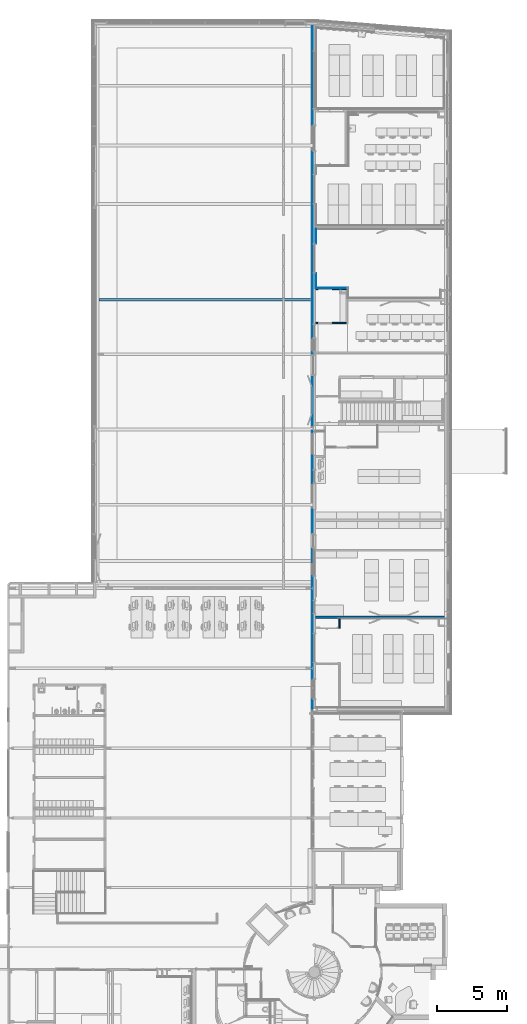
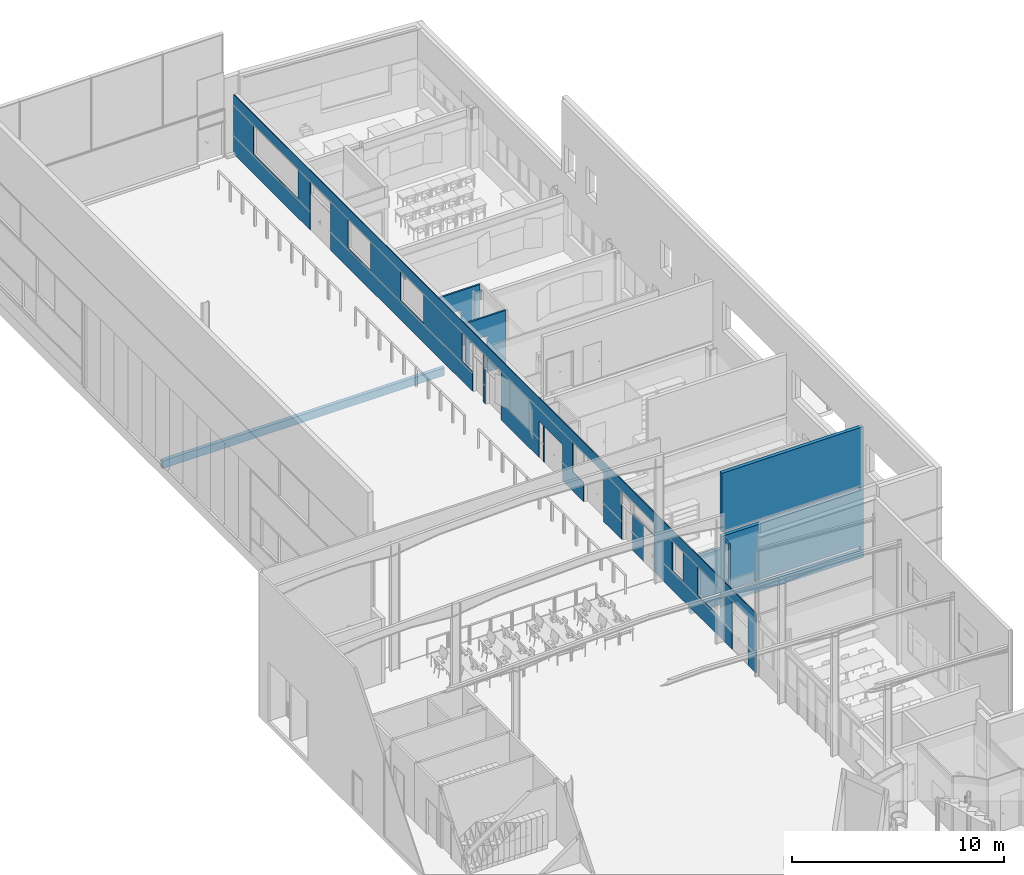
# One storey, part 62 of 137: 8 walls, 44 openings.
"""IFC2X3 building model written with IfcOpenShell, lengths in centimetres."""

from ifc_helpers import new_model, entity, si_unit, converted_unit, derived_unit, direction, frame, frame_2d, origin, origin_2d_with_axis, place, context, subcontext, project, spatial, polyline, rectangle, outline, extrude, clip, halfspace, bounded_halfspace, material, layer, layer_set, layer_usage, type_object, element, save


model = new_model("IFC2X3")

# Units and contexts
model_context = context("Model", 3, precision=0.001, world=origin(), true_north=direction((6.12303176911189e-17, 1.0)))
body_context = subcontext(model_context, "Body", "Model", "MODEL_VIEW")
ifc_project = project(units=[si_unit("LENGTHUNIT", "METRE", prefix="CENTI"), si_unit("AREAUNIT", "SQUARE_METRE"), si_unit("VOLUMEUNIT", "CUBIC_METRE"), converted_unit("PLANEANGLEUNIT", "DEGREE", entity("IfcRatioMeasure", 0.0174532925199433), si_unit("PLANEANGLEUNIT", "RADIAN"), dimensions=[0, 0, 0, 0, 0, 0, 0]), si_unit("MASSUNIT", "GRAM", prefix="KILO"), si_unit("TIMEUNIT", "SECOND"), si_unit("FREQUENCYUNIT", "HERTZ"), si_unit("THERMODYNAMICTEMPERATUREUNIT", "DEGREE_CELSIUS"), derived_unit("THERMALTRANSMITTANCEUNIT", [(si_unit("MASSUNIT", "GRAM", prefix="KILO"), 1), (si_unit("THERMODYNAMICTEMPERATUREUNIT", "KELVIN"), -1), (si_unit("TIMEUNIT", "SECOND"), -3)]), derived_unit("VOLUMETRICFLOWRATEUNIT", [(si_unit("LENGTHUNIT", "METRE"), 3), (si_unit("TIMEUNIT", "SECOND"), -1)]), si_unit("ELECTRICCURRENTUNIT", "AMPERE"), si_unit("ELECTRICVOLTAGEUNIT", "VOLT"), si_unit("POWERUNIT", "WATT"), si_unit("FORCEUNIT", "NEWTON", prefix="KILO"), si_unit("ILLUMINANCEUNIT", "LUX"), si_unit("LUMINOUSFLUXUNIT", "LUMEN"), si_unit("LUMINOUSINTENSITYUNIT", "CANDELA"), derived_unit("USERDEFINED", [(si_unit("MASSUNIT", "GRAM", prefix="KILO"), -1), (si_unit("LENGTHUNIT", "METRE"), -2), (si_unit("TIMEUNIT", "SECOND"), 3), (si_unit("LUMINOUSFLUXUNIT", "LUMEN"), 1)]), derived_unit("LINEARVELOCITYUNIT", [(si_unit("LENGTHUNIT", "METRE"), 1), (si_unit("TIMEUNIT", "SECOND"), -1)]), si_unit("PRESSUREUNIT", "PASCAL"), derived_unit("USERDEFINED", [(si_unit("LENGTHUNIT", "METRE"), -2), (si_unit("MASSUNIT", "GRAM", prefix="KILO"), 1), (si_unit("TIMEUNIT", "SECOND"), -2)])], contexts=[model_context])

# Site, building, storey
site_placement = place(None, frame((8.62739174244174, -249.285249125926, 0.0)))
site = spatial("IfcSite", under=ifc_project, at=site_placement, Name="Default", CompositionType="ELEMENT")
building_placement = place(site_placement, origin())
building = spatial("IfcBuilding", under=site, at=building_placement, CompositionType="ELEMENT")
storey_placement = place(building_placement, origin())
storey = spatial("IfcBuildingStorey", under=building, at=storey_placement, Name="RDC", CompositionType="ELEMENT", Elevation=-8.82465566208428e-11)

# Wall, opening
ifc_material_1 = material(Name="Béton, coulé sur place, gris")
ifc_layer_1 = layer(ifc_material_1, 20.0)
ifc_layer_set_1 = layer_set([ifc_layer_1], Name="Mur de base:BET 20")
ifc_layer_usage_1 = layer_usage(ifc_layer_set_1, "AXIS2", "NEGATIVE", 10.0)
wall_type_1 = type_object("IfcWallType", Name="Mur de base:BET 20", PredefinedType="STANDARD", material=ifc_layer_set_1)
wall_1_placement = place(storey_placement, frame((3053.90482779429, 3303.18519336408, -70.0)))
wall_1 = element("IfcWallStandardCase", 1, at=wall_1_placement, inside=storey, type_object=wall_type_1, material=ifc_layer_usage_1, Name="Mur de base:BET 20", ObjectType="Mur de base:BET 20", context=body_context, shape_type="Clipping", body=[
    clip(clip(clip(extrude(rectangle(XDim=940.500000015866, YDim=19.9999999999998, at=frame_2d((470.250000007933, 7.37188088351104e-14), x_axis=(-1.0, 0.0))), origin(), (0.0, 0.0, 1.0), 753.000000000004), bounded_halfspace(frame((925.0, 10.0, 45.0), z_axis=(1.0, 0.0, 0.0), x_axis=(0.0, 0.0, 1.0)), True, frame((925.0, 10.0, 45.0), z_axis=(1.0, 0.0, 0.0), x_axis=(0.0, 0.0, 1.0)), polyline([(0.0, 0.0), (25.0, 0.0), (25.0, 20.0), (0.0, 20.0), (0.0, 0.0)]))), bounded_halfspace(frame((925.0, 10.0, 390.0), z_axis=(1.0, 0.0, 0.0), x_axis=(0.0, 0.0, 1.0)), True, frame((925.0, 10.0, 390.0), z_axis=(1.0, 0.0, 0.0), x_axis=(0.0, 0.0, 1.0)), polyline([(0.0, 0.0), (23.0, 0.0), (23.0, 20.0), (0.0, 20.0), (0.0, 0.0)]))), halfspace(frame((171.0, 0.0, 753.0), z_axis=(-0.923265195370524, 0.0, 0.384163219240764), x_axis=(0.0, 1.0, 0.0)), False)),
])
opening_1_placement = place(wall_1_placement, origin())
element("IfcOpeningElement", 2, at=opening_1_placement, cuts=wall_1, Name="Mur de base:BET 20", ObjectType="Opening", context=body_context, shape_type="SweptSolid", body=[
    extrude(outline(polyline([(-290.924754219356, -55.7036667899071), (180.22914845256, -55.7036667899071), (110.695605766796, 111.407333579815), (-290.924754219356, -55.7036667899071)])), frame((110.666666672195, 10.0, 463.0), z_axis=(0.0, -1.0, 0.0), x_axis=(-0.384163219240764, 0.0, -0.923265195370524)), (0.0, 0.0, 1.0), 20.0),
])

# Walls
ifc_layer_usage_2 = layer_usage(ifc_layer_set_1, "AXIS2", "NEGATIVE", 10.0)
wall_2_placement = place(storey_placement, frame((3032.1548277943, 5585.47486113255, -70.0), z_axis=(0.0, 0.0, 1.0), x_axis=(-1.0, 0.0, 0.0)))
element("IfcWallStandardCase", 3, at=wall_2_placement, inside=storey, type_object=wall_type_1, material=ifc_layer_usage_2, Name="Mur de base:BET 20", ObjectType="Mur de base:BET 20", context=body_context, shape_type="SweptSolid", body=[
    extrude(rectangle(XDim=1535.25, YDim=20.0000000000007, at=frame_2d((767.624999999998, 0.0), x_axis=(-1.0, 0.0))), origin(), (0.0, 0.0, 1.0), 45.0),
])
ifc_material_2 = material(Name="Stuc")
ifc_layer_2 = layer(ifc_material_2, 10.0)
ifc_layer_set_2 = layer_set([ifc_layer_2], Name="Mur de base:CIM 10")
ifc_layer_usage_3 = layer_usage(ifc_layer_set_2, "AXIS2", "NEGATIVE", 5.0)
wall_type_2 = type_object("IfcWallType", Name="Mur de base:CIM 10", PredefinedType="STANDARD", material=ifc_layer_set_2)
wall_3_placement = place(storey_placement, frame((3224.90482780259, 3223.18519336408, 0.0), z_axis=(0.0, 0.0, 1.0), x_axis=(0.0, 1.0, 0.0)))
element("IfcWallStandardCase", 4, at=wall_3_placement, inside=storey, type_object=wall_type_2, material=ifc_layer_usage_3, Name="Mur de base:CIM 10", ObjectType="Mur de base:CIM 10", context=body_context, shape_type="Clipping", body=[
    clip(extrude(rectangle(XDim=70.0000000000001, YDim=10.0000000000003, at=frame_2d((35.0000000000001, 5.28466159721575e-14), x_axis=(-1.0, 0.0))), origin(), (0.0, 0.0, 1.0), 320.000000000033), bounded_halfspace(frame((0.0, -5.0, 320.0), z_axis=(0.0, 0.0, -1.0), x_axis=(1.0, 0.0, 0.0)), True, frame((0.0, -5.0, 320.0)), polyline([(0.0, 0.0), (70.0, 0.0), (70.0, 10.0), (10.0, 10.0), (0.0, 10.0), (0.0, 0.0)]))),
])

# Wall, opening
ifc_layer_usage_4 = layer_usage(ifc_layer_set_2, "AXIS2", "NEGATIVE", 5.0)
wall_4_placement = place(storey_placement, frame((3272.90482780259, 5417.48020813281, 0.0), z_axis=(0.0, 0.0, 1.0), x_axis=(-1.0, 0.0, 0.0)))
wall_4 = element("IfcWallStandardCase", 5, at=wall_4_placement, inside=storey, type_object=wall_type_2, material=ifc_layer_usage_4, Name="Mur de base:CIM 10", ObjectType="Mur de base:CIM 10", context=body_context, shape_type="Clipping", body=[
    clip(extrude(rectangle(XDim=219.00000001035, YDim=9.99999999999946, at=frame_2d((109.500000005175, 4.39648317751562e-14), x_axis=(-1.0, 0.0))), origin(), (0.0, 0.0, 1.0), 320.000000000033), bounded_halfspace(frame((0.0, -5.0, 320.0), z_axis=(0.0, 0.0, -1.0), x_axis=(0.0, -1.0, 0.0)), True, frame((0.0, -5.0, 320.0)), polyline([(0.0, 0.0), (219.0, 0.0), (219.0, 10.0), (0.0, 10.0), (0.0, 0.0)]))),
])
opening_2_placement = place(wall_4_placement, frame((101.0, -5.0, 0.0)))
element("IfcOpeningElement", 6, at=opening_2_placement, cuts=wall_4, Name="Simple(R)_bois_mu:93 x 204 cm:1", ObjectType="Opening", context=body_context, shape_type="SweptSolid", body=[
    extrude(rectangle(XDim=207.499999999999, YDim=99.9999999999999, at=frame_2d((103.749999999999, 50.0), x_axis=(1.0, 0.0))), frame((0.0, 0.0, 0.0), z_axis=(0.0, 1.0, 0.0), x_axis=(0.0, 0.0, 1.0)), (0.0, 0.0, 1.0), 10.0),
])

ifc_layer_usage_5 = layer_usage(ifc_layer_set_2, "AXIS2", "NEGATIVE", 5.0)
wall_5_placement = place(storey_placement, frame((3272.90482780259, 5662.48020813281, 0.0), z_axis=(0.0, 0.0, 1.0), x_axis=(-1.0, 0.0, 0.0)))
wall_5 = element("IfcWallStandardCase", 7, at=wall_5_placement, inside=storey, type_object=wall_type_2, material=ifc_layer_usage_5, Name="Mur de base:CIM 10", ObjectType="Mur de base:CIM 10", context=body_context, shape_type="Clipping", body=[
    clip(extrude(rectangle(XDim=219.00000001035, YDim=9.99999999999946, at=frame_2d((109.500000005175, 4.39648317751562e-14), x_axis=(-1.0, 0.0))), origin(), (0.0, 0.0, 1.0), 320.000000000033), bounded_halfspace(frame((0.0, -5.0, 320.0), z_axis=(0.0, 0.0, -1.0), x_axis=(0.0, -1.0, 0.0)), True, frame((0.0, -5.0, 320.0)), polyline([(0.0, 0.0), (219.0, 0.0), (219.0, 10.0), (0.0, 10.0), (0.0, 0.0)]))),
])
opening_3_placement = place(wall_5_placement, frame((201.0, 5.0, 0.0)))
element("IfcOpeningElement", 8, at=opening_3_placement, cuts=wall_5, Name="Simple(R)_bois_mu:93 x 204 cm:1", ObjectType="Opening", context=body_context, shape_type="SweptSolid", body=[
    extrude(rectangle(XDim=207.499999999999, YDim=99.9999999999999, at=frame_2d((103.749999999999, 50.0), x_axis=(1.0, 0.0))), frame((0.0, 0.0, 0.0), z_axis=(0.0, -1.0, 0.0), x_axis=(0.0, 0.0, 1.0)), (0.0, 0.0, 1.0), 10.0),
])

# Wall, openings
ifc_material_3 = material(Name="Panneau de grandes particules orientées")
ifc_layer_3 = layer(ifc_material_3, 3.5)
ifc_layer_set_3 = layer_set([ifc_layer_3], Name="Mur de base:ACOUST 7")
ifc_layer_usage_6 = layer_usage(ifc_layer_set_3, "AXIS2", "NEGATIVE", 1.75)
wall_type_3 = type_object("IfcWallType", Name="Mur de base:ACOUST 7", PredefinedType="STANDARD", material=ifc_layer_set_3)
wall_6_placement = place(storey_placement, frame((3032.1548277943, 7561.976551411, 0.0), z_axis=(0.0, 0.0, 1.0), x_axis=(0.0, -1.0, 0.0)))
wall_6 = element("IfcWallStandardCase", 9, at=wall_6_placement, inside=storey, type_object=wall_type_3, material=ifc_layer_usage_6, Name="Mur de base:ACOUST 7", ObjectType="Mur de base:ACOUST 7", context=body_context, shape_type="SweptSolid", body=[
    extrude(rectangle(XDim=4926.99634334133, YDim=3.50000000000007, at=frame_2d((2463.49817167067, -1.54321000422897e-14), x_axis=(-1.0, 0.0))), origin(), (0.0, 0.0, 1.0), 343.000000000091),
])
opening_4_placement = place(wall_6_placement, origin())
element("IfcOpeningElement", 10, at=opening_4_placement, cuts=wall_6, Name="Mur de base:ACOUST 7", ObjectType="Opening", context=body_context, shape_type="SweptSolid", body=[
    extrude(rectangle(XDim=71.9999999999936, YDim=102.000000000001, at=frame_2d((-2.8421709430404e-14, 0.0), x_axis=(1.0, 0.0))), frame((2301.74634327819, -16.9900000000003, 244.0), z_axis=(0.0, 1.0, 0.0), x_axis=(0.0, 0.0, 1.0)), (0.0, 0.0, 1.0), 33.9800000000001),
])
opening_5_placement = place(wall_6_placement, origin())
element("IfcOpeningElement", 11, at=opening_5_placement, cuts=wall_6, Name="Mur de base:ACOUST 7", ObjectType="Opening", context=body_context, shape_type="SweptSolid", body=[
    extrude(rectangle(XDim=203.999999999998, YDim=103.0, at=frame_2d((0.0, 0.0), x_axis=(0.0, 1.0))), frame((3913.7913580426, -150.649999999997, 102.0), z_axis=(0.0, 1.0, 0.0), x_axis=(-1.0, 0.0, 0.0)), (0.0, 0.0, 1.0), 304.8),
])
opening_6_placement = place(wall_6_placement, origin())
element("IfcOpeningElement", 12, at=opening_6_placement, cuts=wall_6, Name="Mur de base:ACOUST 7", ObjectType="Opening", context=body_context, shape_type="SweptSolid", body=[
    extrude(rectangle(XDim=207.499999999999, YDim=39.9999999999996, at=origin_2d_with_axis()), frame((2898.99634327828, -150.649999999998, 103.750000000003), z_axis=(0.0, 1.0, 0.0), x_axis=(0.0, 0.0, 1.0)), (0.0, 0.0, 1.0), 304.8),
])
opening_7_placement = place(wall_6_placement, origin())
element("IfcOpeningElement", 13, at=opening_7_placement, cuts=wall_6, Name="Mur de base:ACOUST 7", ObjectType="Opening", context=body_context, shape_type="SweptSolid", body=[
    extrude(rectangle(XDim=170.0, YDim=100.000000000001, at=frame_2d((4.33431068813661e-13, 0.0), x_axis=(0.0, 1.0))), frame((3246.79135804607, -16.9900000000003, 195.0), z_axis=(0.0, 1.0, 0.0), x_axis=(-1.0, 0.0, 0.0)), (0.0, 0.0, 1.0), 33.9800000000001),
])
opening_8_placement = place(wall_6_placement, origin())
element("IfcOpeningElement", 14, at=opening_8_placement, cuts=wall_6, Name="Mur de base:ACOUST 7", ObjectType="Opening", context=body_context, shape_type="SweptSolid", body=[
    extrude(rectangle(XDim=71.9999999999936, YDim=150.999999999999, at=frame_2d((-2.8421709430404e-14, 0.0), x_axis=(1.0, 0.0))), frame((4774.62848695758, -16.9900000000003, 244.0), z_axis=(0.0, 1.0, 0.0), x_axis=(0.0, 0.0, 1.0)), (0.0, 0.0, 1.0), 33.9800000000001),
])
opening_9_placement = place(wall_6_placement, origin())
element("IfcOpeningElement", 15, at=opening_9_placement, cuts=wall_6, Name="Mur de base:ACOUST 7", ObjectType="Opening", context=body_context, shape_type="SweptSolid", body=[
    extrude(rectangle(XDim=71.9999999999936, YDim=101.999999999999, at=frame_2d((-2.8421709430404e-14, 0.0), x_axis=(1.0, 0.0))), frame((3709.7913580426, -16.9899999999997, 244.0), z_axis=(0.0, 1.0, 0.0), x_axis=(0.0, 0.0, 1.0)), (0.0, 0.0, 1.0), 33.9800000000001),
])
opening_10_placement = place(wall_6_placement, origin())
element("IfcOpeningElement", 16, at=opening_10_placement, cuts=wall_6, Name="Mur de base:ACOUST 7", ObjectType="Opening", context=body_context, shape_type="SweptSolid", body=[
    extrude(rectangle(XDim=71.9999999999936, YDim=150.999999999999, at=frame_2d((-2.8421709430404e-14, 0.0), x_axis=(1.0, 0.0))), frame((2446.24634327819, -16.99, 244.0), z_axis=(0.0, 1.0, 0.0), x_axis=(0.0, 0.0, 1.0)), (0.0, 0.0, 1.0), 33.9800000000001),
])
opening_11_placement = place(wall_6_placement, origin())
element("IfcOpeningElement", 17, at=opening_11_placement, cuts=wall_6, Name="Mur de base:ACOUST 7", ObjectType="Opening", context=body_context, shape_type="SweptSolid", body=[
    extrude(rectangle(XDim=71.9999999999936, YDim=190.999999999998, at=frame_2d((-2.8421709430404e-14, 0.0), x_axis=(1.0, 0.0))), frame((816.696352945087, -16.9900000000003, 244.0), z_axis=(0.0, 1.0, 0.0), x_axis=(0.0, 0.0, 1.0)), (0.0, 0.0, 1.0), 33.9800000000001),
])
opening_12_placement = place(wall_6_placement, origin())
element("IfcOpeningElement", 18, at=opening_12_placement, cuts=wall_6, Name="Mur de base:ACOUST 7", ObjectType="Opening", context=body_context, shape_type="SweptSolid", body=[
    extrude(rectangle(XDim=206.999999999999, YDim=188.999999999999, at=frame_2d((0.0, -4.33431068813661e-13), x_axis=(1.0, 0.0))), frame((815.696352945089, -150.65, 103.500000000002), z_axis=(0.0, 1.0, 0.0), x_axis=(0.0, 0.0, 1.0)), (0.0, 0.0, 1.0), 304.8),
])
opening_13_placement = place(wall_6_placement, origin())
element("IfcOpeningElement", 19, at=opening_13_placement, cuts=wall_6, Name="Mur de base:ACOUST 7", ObjectType="Opening", context=body_context, shape_type="SweptSolid", body=[
    extrude(rectangle(XDim=170.0, YDim=100.000000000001, at=frame_2d((-4.33431068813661e-13, 0.0), x_axis=(0.0, 1.0))), frame((2200.74634327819, -16.9900000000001, 195.0), z_axis=(0.0, 1.0, 0.0), x_axis=(-1.0, 0.0, 0.0)), (0.0, 0.0, 1.0), 33.9800000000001),
])
opening_14_placement = place(wall_6_placement, origin())
element("IfcOpeningElement", 20, at=opening_14_placement, cuts=wall_6, Name="Mur de base:ACOUST 7", ObjectType="Opening", context=body_context, shape_type="SweptSolid", body=[
    extrude(rectangle(XDim=279.0, YDim=189.0, at=frame_2d((0.0, 0.0), x_axis=(0.0, 1.0))), frame((3392.29135804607, -130.649999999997, 139.500000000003), z_axis=(0.0, 1.0, 0.0), x_axis=(-1.0, 0.0, 0.0)), (0.0, 0.0, 1.0), 304.8),
])
opening_15_placement = place(wall_6_placement, origin())
element("IfcOpeningElement", 21, at=opening_15_placement, cuts=wall_6, Name="Mur de base:ACOUST 7", ObjectType="Opening", context=body_context, shape_type="SweptSolid", body=[
    extrude(rectangle(XDim=207.499999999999, YDim=99.9999999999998, at=frame_2d((0.0, 0.0), x_axis=(0.0, 1.0))), frame((2301.74634327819, -130.649999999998, 103.750000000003), z_axis=(0.0, 1.0, 0.0), x_axis=(-1.0, 0.0, 0.0)), (0.0, 0.0, 1.0), 304.8),
])
opening_16_placement = place(wall_6_placement, origin())
element("IfcOpeningElement", 22, at=opening_16_placement, cuts=wall_6, Name="Mur de base:ACOUST 7", ObjectType="Opening", context=body_context, shape_type="SweptSolid", body=[
    extrude(rectangle(XDim=206.999999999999, YDim=148.999999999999, at=frame_2d((0.0, -2.20268248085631e-13), x_axis=(1.0, 0.0))), frame((4775.62848695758, -150.649999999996, 103.500000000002), z_axis=(0.0, 1.0, 0.0), x_axis=(0.0, 0.0, 1.0)), (0.0, 0.0, 1.0), 304.8),
])
opening_17_placement = place(wall_6_placement, origin())
element("IfcOpeningElement", 23, at=opening_17_placement, cuts=wall_6, Name="Mur de base:ACOUST 7", ObjectType="Opening", context=body_context, shape_type="SweptSolid", body=[
    extrude(rectangle(XDim=207.499999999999, YDim=100.000000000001, at=frame_2d((2.16715534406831e-13, 0.0), x_axis=(0.0, 1.0))), frame((3709.79135804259, -130.649999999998, 103.750000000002), z_axis=(0.0, 1.0, 0.0), x_axis=(-1.0, 0.0, 0.0)), (0.0, 0.0, 1.0), 304.8),
])
opening_18_placement = place(wall_6_placement, origin())
element("IfcOpeningElement", 24, at=opening_18_placement, cuts=wall_6, Name="Mur de base:ACOUST 7", ObjectType="Opening", context=body_context, shape_type="SweptSolid", body=[
    extrude(rectangle(XDim=170.00000000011, YDim=215.0, at=frame_2d((0.0, 0.0), x_axis=(0.0, 1.0))), frame((4479.49634399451, -16.9899999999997, 195.0), z_axis=(0.0, 1.0, 0.0), x_axis=(-1.0, 0.0, 0.0)), (0.0, 0.0, 1.0), 33.9800000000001),
])
opening_19_placement = place(wall_6_placement, origin())
element("IfcOpeningElement", 25, at=opening_19_placement, cuts=wall_6, Name="Mur de base:ACOUST 7", ObjectType="Opening", context=body_context, shape_type="SweptSolid", body=[
    extrude(rectangle(XDim=170.0, YDim=100.0, at=frame_2d((-2.16715534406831e-13, 0.0), x_axis=(0.0, 1.0))), frame((4184.79135804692, -16.9899999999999, 195.0), z_axis=(0.0, 1.0, 0.0), x_axis=(-1.0, 0.0, 0.0)), (0.0, 0.0, 1.0), 33.9800000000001),
])
opening_20_placement = place(wall_6_placement, origin())
element("IfcOpeningElement", 26, at=opening_20_placement, cuts=wall_6, Name="Mur de base:ACOUST 7", ObjectType="Opening", context=body_context, shape_type="SweptSolid", body=[
    extrude(rectangle(XDim=170.00000000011, YDim=215.000000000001, at=frame_2d((4.33431068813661e-13, 0.0), x_axis=(0.0, 1.0))), frame((1680.74634327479, -16.99, 195.0), z_axis=(0.0, 1.0, 0.0), x_axis=(-1.0, 0.0, 0.0)), (0.0, 0.0, 1.0), 33.9800000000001),
])
opening_21_placement = place(wall_6_placement, origin())
element("IfcOpeningElement", 27, at=opening_21_placement, cuts=wall_6, Name="Mur de base:ACOUST 7", ObjectType="Opening", context=body_context, shape_type="SweptSolid", body=[
    extrude(rectangle(XDim=170.00000000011, YDim=215.000000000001, at=frame_2d((4.33431068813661e-13, 0.0), x_axis=(0.0, 1.0))), frame((1183.20132850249, -16.9900000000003, 195.0), z_axis=(0.0, 1.0, 0.0), x_axis=(-1.0, 0.0, 0.0)), (0.0, 0.0, 1.0), 33.9800000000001),
])
opening_22_placement = place(wall_6_placement, origin())
element("IfcOpeningElement", 28, at=opening_22_placement, cuts=wall_6, Name="Mur de base:ACOUST 7", ObjectType="Opening", context=body_context, shape_type="SweptSolid", body=[
    extrude(rectangle(XDim=170.0, YDim=420.000000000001, at=frame_2d((-4.2632564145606e-13, 0.0), x_axis=(0.0, 1.0))), frame((397.275813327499, -16.9899999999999, 195.0), z_axis=(0.0, 1.0, 0.0), x_axis=(-1.0, 0.0, 0.0)), (0.0, 0.0, 1.0), 33.9800000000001),
])
opening_23_placement = place(wall_6_placement, origin())
element("IfcOpeningElement", 29, at=opening_23_placement, cuts=wall_6, Name="Mur de base:ACOUST 7", ObjectType="Opening", context=body_context, shape_type="SweptSolid", body=[
    extrude(rectangle(XDim=71.5000000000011, YDim=204.500000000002, at=frame_2d((-2.1316282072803e-13, -1.4210854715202e-14), x_axis=(0.0, 1.0))), frame((3863.0413580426, -16.9900000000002, 244.250000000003), z_axis=(0.0, 1.0, 0.0), x_axis=(-1.0, 0.0, 0.0)), (0.0, 0.0, 1.0), 33.9800000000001),
])
opening_24_placement = place(wall_6_placement, origin())
element("IfcOpeningElement", 30, at=opening_24_placement, cuts=wall_6, Name="Mur de base:ACOUST 7", ObjectType="Opening", context=body_context, shape_type="SweptSolid", body=[
    extrude(rectangle(XDim=280.000000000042, YDim=149.884818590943, at=frame_2d((-24.9808030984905, -22.4999999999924), x_axis=(0.0, 1.0))), frame((4800.16688076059, 1.75000000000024, 162.500000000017), z_axis=(0.0, -1.0, 0.0), x_axis=(1.0, 0.0, 0.0)), (0.0, 0.0, 1.0), 3.5),
])
opening_25_placement = place(wall_6_placement, origin())
element("IfcOpeningElement", 31, at=opening_25_placement, cuts=wall_6, Name="Mur de base:ACOUST 7", ObjectType="Opening", context=body_context, shape_type="SweptSolid", body=[
    extrude(rectangle(XDim=280.000000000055, YDim=190.999999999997, at=frame_2d((19.0999999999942, -13.6000000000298), x_axis=(0.0, 1.0))), frame((797.596352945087, 1.74999999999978, 153.600000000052), z_axis=(0.0, -1.0, 0.0), x_axis=(1.0, 0.0, 0.0)), (0.0, 0.0, 1.0), 3.5),
])
opening_26_placement = place(wall_6_placement, origin())
element("IfcOpeningElement", 32, at=opening_26_placement, cuts=wall_6, Name="Mur de base:ACOUST 7", ObjectType="Opening", context=body_context, shape_type="SweptSolid", body=[
    extrude(outline(polyline([(-0.666666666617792, -130.0), (101.33333333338, -130.0), (101.333333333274, 150.0), (-100.666666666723, 150.0), (-100.666666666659, -20.0), (-0.666666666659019, -20.0), (-0.666666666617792, -130.0)])), frame((2251.41300994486, 1.75000000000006, 130.0), z_axis=(0.0, -1.0, 0.0), x_axis=(1.0, 0.0, 0.0)), (0.0, 0.0, 1.0), 3.5),
])
opening_27_placement = place(wall_6_placement, origin())
element("IfcOpeningElement", 33, at=opening_27_placement, cuts=wall_6, Name="Mur de base:ACOUST 7", ObjectType="Opening", context=body_context, shape_type="SweptSolid", body=[
    extrude(rectangle(XDim=280.0, YDim=150.999999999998, at=frame_2d((0.0, 1.27471366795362e-11), x_axis=(0.0, 1.0))), frame((2446.24634327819, 1.75000000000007, 140.0), z_axis=(0.0, -1.0, 0.0), x_axis=(1.0, 0.0, 0.0)), (0.0, 0.0, 1.0), 3.5),
])
opening_28_placement = place(wall_6_placement, origin())
element("IfcOpeningElement", 34, at=opening_28_placement, cuts=wall_6, Name="Mur de base:ACOUST 7", ObjectType="Opening", context=body_context, shape_type="SweptSolid", body=[
    extrude(rectangle(XDim=208.0, YDim=171.0, at=frame_2d((17.1000000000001, 20.3999999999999), x_axis=(0.0, 1.0))), frame((2996.39634327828, 1.75000000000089, 83.6000000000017), z_axis=(0.0, -1.0, 0.0), x_axis=(1.0, 0.0, 0.0)), (0.0, 0.0, 1.0), 3.5),
])
opening_29_placement = place(wall_6_placement, origin())
element("IfcOpeningElement", 35, at=opening_29_placement, cuts=wall_6, Name="Mur de base:ACOUST 7", ObjectType="Opening", context=body_context, shape_type="SweptSolid", body=[
    extrude(outline(polyline([(-30.3333333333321, -130.0), (160.666666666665, -130.0), (160.666666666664, 150.0), (-130.333333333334, 150.0), (-130.333333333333, -20.0), (-30.3333333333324, -20.0), (-30.3333333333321, -130.0)])), frame((3327.1246913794, 1.75000000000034, 130.0), z_axis=(0.0, -1.0, 0.0), x_axis=(1.0, 0.0, 0.0)), (0.0, 0.0, 1.0), 3.5),
])
opening_30_placement = place(wall_6_placement, origin())
element("IfcOpeningElement", 36, at=opening_30_placement, cuts=wall_6, Name="Mur de base:ACOUST 7", ObjectType="Opening", context=body_context, shape_type="SweptSolid", body=[
    extrude(outline(polyline([(-136.0, -162.833333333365), (-34.0, -162.833333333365), (-34.0, 45.6666666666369), (170.0, 45.6666666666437), (170.0, 117.16666666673), (-136.0, 117.16666666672), (-136.0, -162.833333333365)])), frame((3794.7913580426, 1.75000000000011, 162.833333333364), z_axis=(0.0, -1.0, 0.0), x_axis=(1.0, 0.0, 0.0)), (0.0, 0.0, 1.0), 3.5),
])

# Wall
ifc_material_4 = material(Name="Laine minérale")
ifc_layer_4 = layer(ifc_material_4, 3.0)
ifc_material_5 = material(Name="Panneau de grandes particules orientées(1)")
ifc_layer_5 = layer(ifc_material_5, 2.0)
ifc_layer_set_4 = layer_set([ifc_layer_4, ifc_layer_5], Name="Mur de base:ACOUST panneaux fibres")
ifc_layer_usage_7 = layer_usage(ifc_layer_set_4, "AXIS2", "NEGATIVE", 2.5)
wall_type_4 = type_object("IfcWallType", Name="Mur de base:ACOUST panneaux fibres", PredefinedType="STANDARD", material=ifc_layer_set_4)
wall_7_placement = place(storey_placement, frame((3287.90482780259, 5669.98020813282, 220.0), z_axis=(0.0, 0.0, 1.0), x_axis=(-1.0, 0.0, 0.0)))
element("IfcWallStandardCase", 37, at=wall_7_placement, inside=storey, type_object=wall_type_4, material=ifc_layer_usage_7, Name="Mur de base:ACOUST panneaux fibres", ObjectType="Mur de base:ACOUST panneaux fibres", context=body_context, shape_type="SweptSolid", body=[
    extrude(rectangle(XDim=234.000000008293, YDim=5.0000000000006, at=frame_2d((117.000000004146, 0.0), x_axis=(-1.0, 0.0))), origin(), (0.0, 0.0, 1.0), 60.0),
])

# Wall, openings
ifc_layer_usage_8 = layer_usage(ifc_layer_set_4, "AXIS2", "NEGATIVE", 2.5)
wall_8_placement = place(storey_placement, frame((3056.4048277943, 5672.48020813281, 220.0), z_axis=(0.0, 0.0, 1.0), x_axis=(0.0, 1.0, 0.0)))
wall_8 = element("IfcWallStandardCase", 38, at=wall_8_placement, inside=storey, type_object=wall_type_4, material=ifc_layer_usage_8, Name="Mur de base:ACOUST panneaux fibres", ObjectType="Mur de base:ACOUST panneaux fibres", context=body_context, shape_type="SweptSolid", body=[
    extrude(rectangle(XDim=422.500000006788, YDim=4.99999999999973, at=frame_2d((211.250000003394, -3.33066907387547e-15), x_axis=(-1.0, 0.0))), origin(), (0.0, 0.0, 1.0), 60.0),
])
opening_31_placement = place(wall_8_placement, origin())
element("IfcOpeningElement", 39, at=opening_31_placement, cuts=wall_8, Name="Mur de base:ACOUST panneaux fibres", ObjectType="Opening", context=body_context, shape_type="SweptSolid", body=[
    extrude(rectangle(XDim=170.00000000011, YDim=215.000000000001, at=frame_2d((0.0, 4.33431068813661e-13), x_axis=(1.0, 0.0))), frame((208.750000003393, -17.7400000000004, -25.0), z_axis=(0.0, 1.0, 0.0), x_axis=(0.0, 0.0, 1.0)), (0.0, 0.0, 1.0), 35.4800000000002),
])
opening_32_placement = place(wall_8_placement, origin())
element("IfcOpeningElement", 40, at=opening_32_placement, cuts=wall_8, Name="Mur de base:ACOUST panneaux fibres", ObjectType="Opening", context=body_context, shape_type="SweptSolid", body=[
    extrude(rectangle(XDim=170.00000000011, YDim=215.000000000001, at=frame_2d((0.0, 4.33431068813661e-13), x_axis=(1.0, 0.0))), frame((-2590.0, -17.7400000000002, -25.0), z_axis=(0.0, 1.0, 0.0), x_axis=(0.0, 0.0, 1.0)), (0.0, 0.0, 1.0), 35.4800000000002),
])
opening_33_placement = place(wall_8_placement, origin())
element("IfcOpeningElement", 41, at=opening_33_placement, cuts=wall_8, Name="Mur de base:ACOUST panneaux fibres", ObjectType="Opening", context=body_context, shape_type="SweptSolid", body=[
    extrude(rectangle(XDim=170.0, YDim=100.0, at=frame_2d((0.0, -2.16715534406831e-13), x_axis=(1.0, 0.0))), frame((-2295.29501476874, -17.7400000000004, -25.0), z_axis=(0.0, 1.0, 0.0), x_axis=(0.0, 0.0, 1.0)), (0.0, 0.0, 1.0), 35.4800000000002),
])
opening_34_placement = place(wall_8_placement, origin())
element("IfcOpeningElement", 42, at=opening_34_placement, cuts=wall_8, Name="Mur de base:ACOUST panneaux fibres", ObjectType="Opening", context=body_context, shape_type="SweptSolid", body=[
    extrude(rectangle(XDim=170.0, YDim=100.000000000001, at=frame_2d((0.0, 4.33431068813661e-13), x_axis=(1.0, 0.0))), frame((-311.250000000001, -17.7400000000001, -25.0), z_axis=(0.0, 1.0, 0.0), x_axis=(0.0, 0.0, 1.0)), (0.0, 0.0, 1.0), 35.4800000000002),
])
opening_35_placement = place(wall_8_placement, origin())
element("IfcOpeningElement", 43, at=opening_35_placement, cuts=wall_8, Name="Mur de base:ACOUST panneaux fibres", ObjectType="Opening", context=body_context, shape_type="SweptSolid", body=[
    extrude(rectangle(XDim=71.9999999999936, YDim=150.999999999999, at=frame_2d((0.0, -2.8421709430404e-14), x_axis=(0.0, 1.0))), frame((-556.749999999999, -17.7400000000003, 24.0), z_axis=(0.0, 1.0, 0.0), x_axis=(-1.0, 0.0, 0.0)), (0.0, 0.0, 1.0), 35.4800000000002),
])
opening_36_placement = place(wall_8_placement, origin())
element("IfcOpeningElement", 44, at=opening_36_placement, cuts=wall_8, Name="Mur de base:ACOUST panneaux fibres", ObjectType="Opening", context=body_context, shape_type="SweptSolid", body=[
    extrude(rectangle(XDim=71.9999999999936, YDim=150.999999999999, at=frame_2d((0.0, -2.8421709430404e-14), x_axis=(0.0, 1.0))), frame((-2885.13214367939, -17.7400000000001, 24.0), z_axis=(0.0, 1.0, 0.0), x_axis=(-1.0, 0.0, 0.0)), (0.0, 0.0, 1.0), 35.4800000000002),
])
opening_37_placement = place(wall_8_placement, origin())
element("IfcOpeningElement", 45, at=opening_37_placement, cuts=wall_8, Name="Mur de base:ACOUST panneaux fibres", ObjectType="Opening", context=body_context, shape_type="SweptSolid", body=[
    extrude(rectangle(XDim=170.00000000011, YDim=215.000000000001, at=frame_2d((0.0, -4.33431068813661e-13), x_axis=(1.0, 0.0))), frame((706.295014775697, -17.7400000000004, -25.0), z_axis=(0.0, 1.0, 0.0), x_axis=(0.0, 0.0, 1.0)), (0.0, 0.0, 1.0), 35.4800000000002),
])
opening_38_placement = place(wall_8_placement, origin())
element("IfcOpeningElement", 46, at=opening_38_placement, cuts=wall_8, Name="Mur de base:ACOUST panneaux fibres", ObjectType="Opening", context=body_context, shape_type="SweptSolid", body=[
    extrude(rectangle(XDim=170.0, YDim=420.000000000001, at=frame_2d((0.0, 4.2632564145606e-13), x_axis=(1.0, 0.0))), frame((1492.22052995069, -17.74, -25.0), z_axis=(0.0, 1.0, 0.0), x_axis=(0.0, 0.0, 1.0)), (0.0, 0.0, 1.0), 35.4800000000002),
])
opening_39_placement = place(wall_8_placement, origin())
element("IfcOpeningElement", 47, at=opening_39_placement, cuts=wall_8, Name="Mur de base:ACOUST panneaux fibres", ObjectType="Opening", context=body_context, shape_type="SweptSolid", body=[
    extrude(rectangle(XDim=71.9999999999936, YDim=101.999999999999, at=frame_2d((0.0, -2.8421709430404e-14), x_axis=(0.0, 1.0))), frame((-1820.29501476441, -17.7400000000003, 24.0), z_axis=(0.0, 1.0, 0.0), x_axis=(-1.0, 0.0, 0.0)), (0.0, 0.0, 1.0), 35.4800000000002),
])
opening_40_placement = place(wall_8_placement, origin())
element("IfcOpeningElement", 48, at=opening_40_placement, cuts=wall_8, Name="Mur de base:ACOUST panneaux fibres", ObjectType="Opening", context=body_context, shape_type="SweptSolid", body=[
    extrude(rectangle(XDim=279.0, YDim=188.999999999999, at=frame_2d((-1.4210854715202e-14, 4.33431068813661e-13), x_axis=(1.0, 0.0))), frame((-1502.79501476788, -149.899999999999, -80.5000000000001), z_axis=(0.0, 1.0, 0.0), x_axis=(0.0, 0.0, 1.0)), (0.0, 0.0, 1.0), 304.8),
])
opening_41_placement = place(wall_8_placement, origin())
element("IfcOpeningElement", 49, at=opening_41_placement, cuts=wall_8, Name="Mur de base:ACOUST panneaux fibres", ObjectType="Opening", context=body_context, shape_type="SweptSolid", body=[
    extrude(rectangle(XDim=71.9999999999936, YDim=102.000000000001, at=frame_2d((0.0, -2.8421709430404e-14), x_axis=(0.0, 1.0))), frame((-412.250000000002, -17.7400000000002, 24.0), z_axis=(0.0, 1.0, 0.0), x_axis=(-1.0, 0.0, 0.0)), (0.0, 0.0, 1.0), 35.4800000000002),
])
opening_42_placement = place(wall_8_placement, origin())
element("IfcOpeningElement", 50, at=opening_42_placement, cuts=wall_8, Name="Mur de base:ACOUST panneaux fibres", ObjectType="Opening", context=body_context, shape_type="SweptSolid", body=[
    extrude(rectangle(XDim=170.0, YDim=100.000000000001, at=frame_2d((0.0, 4.33431068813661e-13), x_axis=(1.0, 0.0))), frame((-1357.29501476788, -17.7400000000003, -25.0), z_axis=(0.0, 1.0, 0.0), x_axis=(0.0, 0.0, 1.0)), (0.0, 0.0, 1.0), 35.4800000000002),
])
opening_43_placement = place(wall_8_placement, origin())
element("IfcOpeningElement", 51, at=opening_43_placement, cuts=wall_8, Name="Mur de base:ACOUST panneaux fibres", ObjectType="Opening", context=body_context, shape_type="SweptSolid", body=[
    extrude(rectangle(XDim=71.9999999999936, YDim=190.999999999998, at=frame_2d((0.0, -2.8421709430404e-14), x_axis=(0.0, 1.0))), frame((1072.7999903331, -17.7400000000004, 24.0), z_axis=(0.0, 1.0, 0.0), x_axis=(-1.0, 0.0, 0.0)), (0.0, 0.0, 1.0), 35.4800000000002),
])
opening_44_placement = place(wall_8_placement, origin())
element("IfcOpeningElement", 52, at=opening_44_placement, cuts=wall_8, Name="Mur de base:ACOUST panneaux fibres", ObjectType="Opening", context=body_context, shape_type="SweptSolid", body=[
    extrude(rectangle(XDim=71.5000000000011, YDim=204.500000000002, at=frame_2d((-1.4210854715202e-14, -2.1316282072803e-13), x_axis=(1.0, 0.0))), frame((-1973.54501476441, -17.74, 24.2499999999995), z_axis=(0.0, 1.0, 0.0), x_axis=(0.0, 0.0, 1.0)), (0.0, 0.0, 1.0), 35.4800000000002),
])

save(model, "model.ifc")
